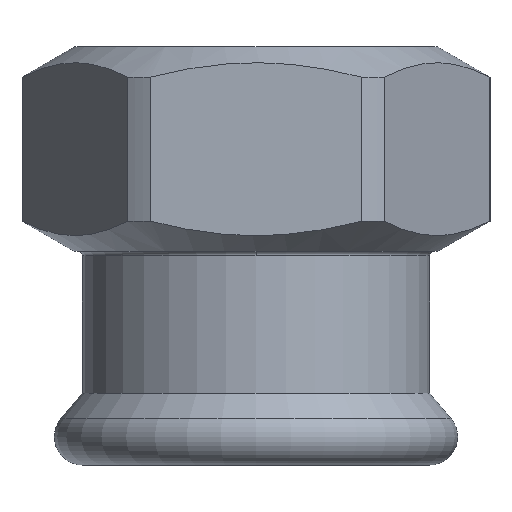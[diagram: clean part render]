
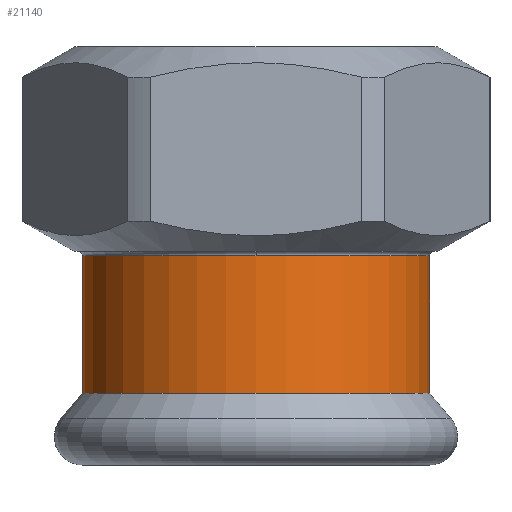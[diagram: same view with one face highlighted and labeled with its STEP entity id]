
A CAD part, left-side view. The second image highlights one B-rep face of the part: STEP entity #21140.
In plain terms, the highlighted cylindrical face has radius 19.1 mm (diameter 38.2 mm), a partial arc.
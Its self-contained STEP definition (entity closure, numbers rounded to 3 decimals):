
#6490=CARTESIAN_POINT('',(-2.694,0.,
3.723));
#6500=DIRECTION('',(0.,0.,1.));
#6510=DIRECTION('',(0.,1.,0.));
#6520=AXIS2_PLACEMENT_3D('',#6490,#6500,#6510);
#6530=CYLINDRICAL_SURFACE('',#6520,19.1);
#6540=CARTESIAN_POINT('',(-2.694,19.1,3.723));
#6550=DIRECTION('',(0.,0.,1.));
#6560=VECTOR('',#6550,1.);
#6570=LINE('',#6540,#6560);
#6580=CARTESIAN_POINT('',(-2.694,19.1,-2.918));
#6590=VERTEX_POINT('',#6580);
#6600=CARTESIAN_POINT('',(-2.694,19.1,12.165));
#6610=VERTEX_POINT('',#6600);
#6620=EDGE_CURVE('',#6590,#6610,#6570,.T.);
#6640=CARTESIAN_POINT('',(-2.694,0.,
-2.918));
#6650=DIRECTION('',(0.,0.,-1.));
#6660=DIRECTION('',(0.,-1.,0.));
#6670=AXIS2_PLACEMENT_3D('',#6640,#6650,#6660);
#6680=CIRCLE('',#6670,19.1);
#6690=CARTESIAN_POINT('',(-2.694,-19.1,-2.918));
#6700=VERTEX_POINT('',#6690);
#6730=CARTESIAN_POINT('',(-2.694,-19.1,3.723));
#6740=DIRECTION('',(0.,0.,1.));
#6750=VECTOR('',#6740,1.);
#6760=LINE('',#6730,#6750);
#6770=CARTESIAN_POINT('',(-2.694,-19.1,12.165));
#6780=VERTEX_POINT('',#6770);
#6790=EDGE_CURVE('',#6700,#6780,#6760,.T.);
#6810=CARTESIAN_POINT('',(-2.694,0.,
12.165));
#6820=DIRECTION('',(0.,0.,1.));
#6830=DIRECTION('',(1.,0.,0.));
#6840=AXIS2_PLACEMENT_3D('',#6810,#6820,#6830);
#6850=CIRCLE('',#6840,19.1);
#20420=CARTESIAN_POINT('',(-21.794,0.,
12.165));
#20430=VERTEX_POINT('',#20420);
#20460=EDGE_CURVE('',#6610,#20430,#6850,.T.);
#21050=EDGE_CURVE('',#6700,#6590,#6680,.T.);
#21060=ORIENTED_EDGE('',*,*,#21050,.F.);
#21070=ORIENTED_EDGE('',*,*,#6620,.F.);
#21080=ORIENTED_EDGE('',*,*,#20460,.F.);
#21090=EDGE_CURVE('',#20430,#6780,#6850,.T.);
#21100=ORIENTED_EDGE('',*,*,#21090,.F.);
#21110=ORIENTED_EDGE('',*,*,#6790,.T.);
#21120=EDGE_LOOP('',(#21110,#21100,#21080,#21070,#21060));
#21130=FACE_OUTER_BOUND('',#21120,.T.);
#21140=ADVANCED_FACE('',(#21130),#6530,.T.);
